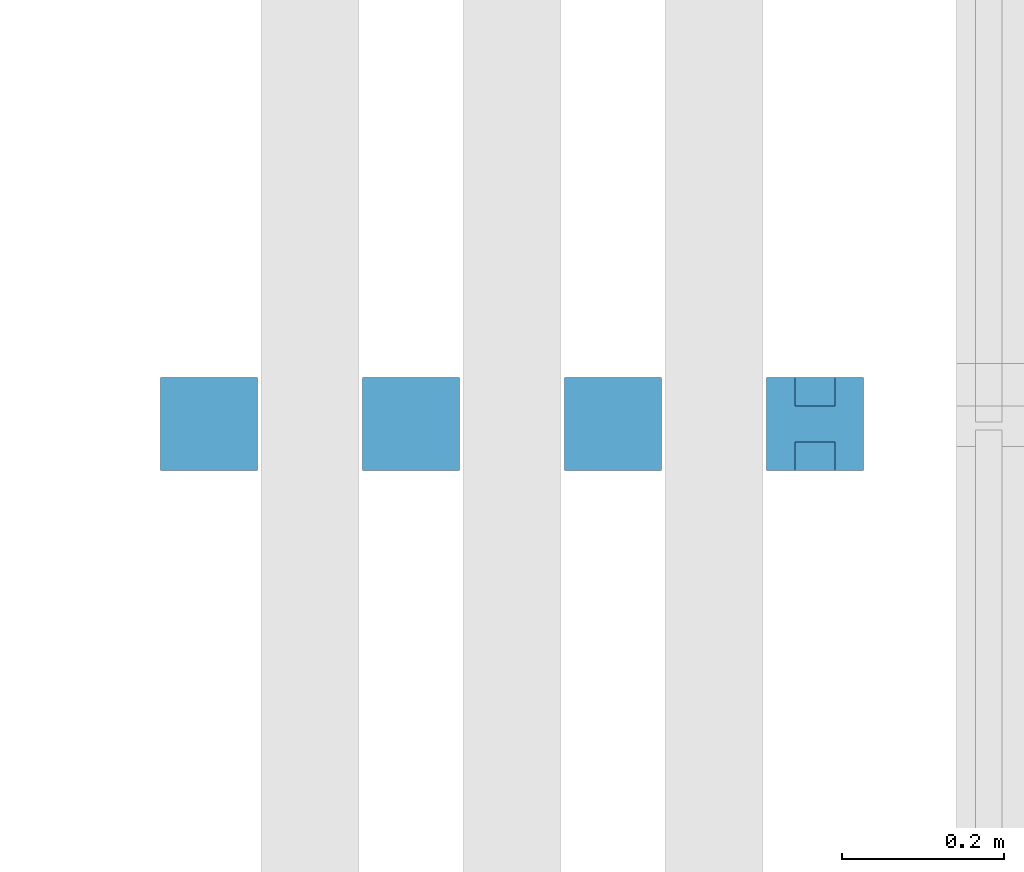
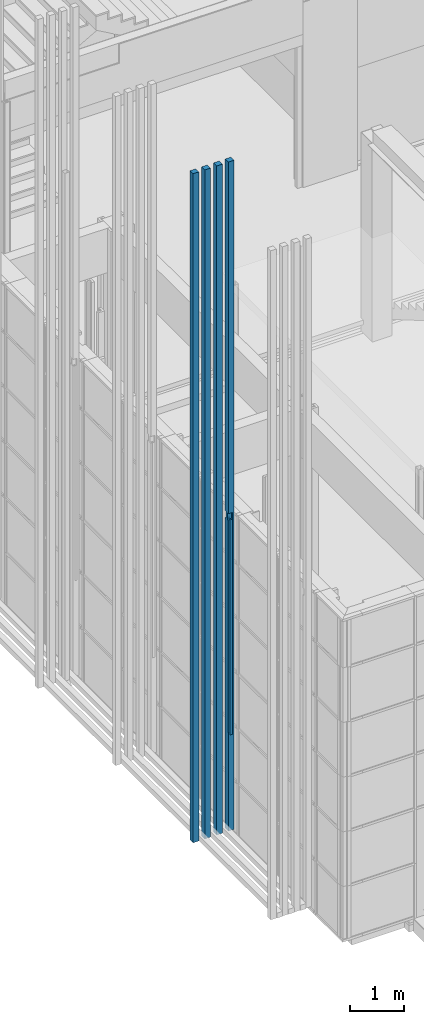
# One storey, part 134 of 260: 3 discrete accessories.
"""IFC2X3 building model written with IfcOpenShell, lengths in millimetres."""

from ifc_helpers import new_model, entity, si_unit, converted_unit, derived_unit, money_unit, direction, frame, origin_with_axes, place, context, subcontext, project, spatial, faceted_brep, material, material_list, type_object, element, save


model = new_model("IFC2X3")

# Units and contexts
model_context = context("Model", 3, precision=0.01, world=origin_with_axes(), true_north=direction((0.0, 1.0)))
body_context = subcontext(model_context, "Body", "Model", "MODEL_VIEW")
ifc_project = project(units=[si_unit("LENGTHUNIT", "METRE", prefix="MILLI"), si_unit("AREAUNIT", "SQUARE_METRE"), si_unit("VOLUMEUNIT", "CUBIC_METRE"), converted_unit("PLANEANGLEUNIT", "DEGREE", entity("IfcPlaneAngleMeasure", 0.0174532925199), si_unit("PLANEANGLEUNIT", "RADIAN"), dimensions=[0, 0, 0, 0, 0, 0, 0]), money_unit("EUR"), converted_unit("TIMEUNIT", "Year", entity("IfcTimeMeasure", 31556926.0), si_unit("TIMEUNIT", "SECOND"), dimensions=[0, 0, 1, 0, 0, 0, 0]), si_unit("MASSUNIT", "GRAM", prefix="KILO"), si_unit("THERMODYNAMICTEMPERATUREUNIT", "DEGREE_CELSIUS"), si_unit("LUMINOUSINTENSITYUNIT", "LUMEN"), si_unit("ENERGYUNIT", "JOULE", prefix="MEGA"), derived_unit("THERMALCONDUCTANCEUNIT", [(si_unit("POWERUNIT", "WATT"), 1), (si_unit("LENGTHUNIT", "METRE"), -1), (si_unit("THERMODYNAMICTEMPERATUREUNIT", "KELVIN"), -1)]), derived_unit("SPECIFICHEATCAPACITYUNIT", [(si_unit("ENERGYUNIT", "JOULE"), 1), (si_unit("MASSUNIT", "GRAM", prefix="KILO"), -1), (si_unit("THERMODYNAMICTEMPERATUREUNIT", "KELVIN"), -1)]), derived_unit("MASSDENSITYUNIT", [(si_unit("MASSUNIT", "GRAM", prefix="KILO"), 1), (si_unit("VOLUMEUNIT", "CUBIC_METRE"), -1)])], contexts=[model_context])

# Site, building, storey
site_placement = place(None, origin_with_axes())
site = spatial("IfcSite", under=ifc_project, at=site_placement, Name="Kolde pst 67a", CompositionType="ELEMENT")
building_placement = place(site_placement, origin_with_axes())
building = spatial("IfcBuilding", under=site, at=building_placement, Name="Riigigümnaasium", CompositionType="ELEMENT")
storey_placement = place(building_placement, origin_with_axes())
storey = spatial("IfcBuildingStorey", under=building, at=storey_placement, Name="1. korrus", CompositionType="ELEMENT", Elevation=0.0)

# Discrete accessories
ifc_material_1 = material(Name="_VÄLISVIIMISTLUS - sõrmjätkatud puitprussid 120x115mm, liitekohad vähemärgatavad, Platowood sõrmjätkatud kuusk või samaväärne; eeltöödeldud tuletõkkevõõbaga, tuletundlikkus B-s1, d0, Woodsafe Exterior WFX™ või samaväärne; kinnitused vastavalt EK osale")
ifc_material_list = material_list([ifc_material_1, ifc_material_1, ifc_material_1, ifc_material_1])
discrete_accessory_type_1 = type_object("IfcDiscreteAccessoryType", Name="120 4-ne vertikaalne 870 x 115")
discrete_accessory_1_placement = place(storey_placement, frame((47687.9900449, 11076.8599885, 280.0), z_axis=(0.0, 0.0, 1.0), x_axis=(-0.999999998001, -6.32316306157e-05, 0.0)))
element("IfcDiscreteAccessory", 1, at=discrete_accessory_1_placement, inside=storey, type_object=discrete_accessory_type_1, material=ifc_material_list, Name="Päikesevarjestus", context=body_context, shape_type="Brep", body=[
    faceted_brep([(97.9977945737, 10.1206802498, 6989.99966445), (47.9977946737, 10.1238418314, 6989.99966445), (47.9977946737, 10.1238418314, 7139.99966445), (133.0, 10.1184670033, 7139.99966445), (133.0, 10.1184670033, 6989.99966445), (97.9977945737, 10.1206802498, 2150.0), (47.9977946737, 10.1238418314, 2150.0), (47.99999995, 45.0, 6989.99966445), (47.99999995, 45.0, 7139.99966445), (133.0, 45.0, 7139.99966445), (133.0, 45.0, 6989.99966445), (133.0, 45.0, 15050.0), (133.0, -70.0, 15050.0), (133.0, -70.0, 7139.99966445), (133.0, -34.8820354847, 7139.99966445), (133.0, -34.8820354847, 6989.99966445), (133.0, -70.0, 6989.99966445), (133.0, -70.0, 0.0), (133.0, 45.0, 0.0), (98.00000005, 45.0, 6989.99966445), (98.00000005, 45.0, 2150.0), (47.99999995, 45.0, 2150.0), (13.0, 45.0, 0.0), (13.0, 45.0, 15050.0), (13.0, -70.0, 15050.0), (13.0, -70.0, 0.0), (47.9927283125, -70.0, 6989.99966445), (47.9927283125, -70.0, 7139.99966445), (47.9949492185, -34.8766604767, 7139.99966445), (47.9945881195, -34.8766604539, 6989.99966445), (97.9945880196, -34.8798220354, 6989.99966445), (97.9923749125, -69.8798219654, 6989.99966445), (47.9923750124, -69.8766603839, 6989.99966445), (97.9945880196, -34.8798220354, 2150.0), (47.9945881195, -34.8766604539, 2150.0), (97.9923749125, -69.8798219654, 2150.0), (47.9923750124, -69.8766603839, 2150.0)], [[[0, 1, 2, 3, 4]], [[1, 0, 5, 6]], [[1, 7, 8, 2]], [[3, 2, 8, 9]], [[10, 4, 3, 9, 11, 12, 13, 14, 15, 16, 17, 18]], [[19, 0, 4, 10]], [[0, 19, 20, 5]], [[20, 21, 6, 5]], [[7, 1, 6, 21]], [[20, 19, 10, 18, 22, 23, 11, 9, 8, 7, 21]], [[23, 24, 12, 11]], [[25, 17, 16, 26, 27, 13, 12, 24]], [[28, 14, 13, 27]], [[28, 29, 30, 15, 14]], [[15, 30, 31, 32, 26, 16]], [[17, 25, 22, 18]], [[25, 24, 23, 22]], [[26, 32, 29, 28, 27]], [[33, 30, 29, 34]], [[35, 31, 30, 33]], [[36, 32, 31, 35]], [[34, 29, 32, 36]], [[34, 36, 35, 33]]]),
    faceted_brep([(383.0, 45.0, 0.0), (263.0, 45.0, 0.0), (263.0, 45.0, 15050.0), (383.0, 45.0, 15050.0), (383.0, -70.0, 0.0), (263.0, -70.0, 0.0), (263.0, -70.0, 15050.0), (383.0, -70.0, 15050.0)], [[[0, 1, 2, 3]], [[0, 4, 5, 1]], [[1, 5, 6, 2]], [[3, 2, 6, 7]], [[4, 0, 3, 7]], [[5, 4, 7, 6]]]),
    faceted_brep([(633.0, 45.0, 0.0), (513.0, 45.0, 0.0), (513.0, 45.0, 15050.0), (633.0, 45.0, 15050.0), (633.0, -70.0, 0.0), (513.0, -70.0, 0.0), (513.0, -70.0, 15050.0), (633.0, -70.0, 15050.0)], [[[0, 1, 2, 3]], [[0, 4, 5, 1]], [[1, 5, 6, 2]], [[3, 2, 6, 7]], [[4, 0, 3, 7]], [[5, 4, 7, 6]]]),
    faceted_brep([(883.0, 45.0, 0.0), (763.0, 45.0, 0.0), (763.0, 45.0, 15050.0), (883.0, 45.0, 15050.0), (883.0, -70.0, 0.0), (763.0, -70.0, 0.0), (763.0, -70.0, 15050.0), (883.0, -70.0, 15050.0)], [[[0, 1, 2, 3]], [[0, 4, 5, 1]], [[1, 5, 6, 2]], [[3, 2, 6, 7]], [[4, 0, 3, 7]], [[5, 4, 7, 6]]]),
])
ifc_material_2 = material(Name="_METALL - teras")
discrete_accessory_type_2 = type_object("IfcDiscreteAccessoryType", Name="_METALL - teras 50 x 35")
discrete_accessory_2_placement = place(storey_placement, frame((47614.9932516, 11129.2336141, 2430.0), z_axis=(0.0, 0.0, 1.0), x_axis=(-1.0, 0.0, 0.0)))
element("IfcDiscreteAccessory", 2, at=discrete_accessory_2_placement, inside=storey, type_object=discrete_accessory_type_2, material=ifc_material_2, Name="Varjestuskardina külgsiin RENSON või analoog", context=body_context, shape_type="Brep", body=[
    faceted_brep([(-25.0, -17.5, 4839.99966445), (-25.0, -17.5, 0.0), (25.0, -17.5, 0.0), (25.0, -17.5, 4839.99966445), (-25.0, 17.5, 4839.99966445), (-25.0, 17.5, 0.0), (25.0, 17.5, 0.0), (25.0, 17.5, 4839.99966445)], [[[0, 1, 2, 3]], [[4, 5, 1, 0]], [[2, 1, 5, 6]], [[3, 2, 6, 7]], [[4, 0, 3, 7]], [[7, 6, 5, 4]]]),
])
discrete_accessory_3_placement = place(storey_placement, frame((47614.9928905, 11049.2331117, 2430.0), z_axis=(0.0, 0.0, 1.0), x_axis=(1.0, 0.0, 0.0)))
element("IfcDiscreteAccessory", 3, at=discrete_accessory_3_placement, inside=storey, type_object=discrete_accessory_type_2, material=ifc_material_2, Name="Varjestuskardina külgsiin RENSON või analoog", context=body_context, shape_type="Brep", body=[
    faceted_brep([(25.0, 17.5, 4839.99966445), (25.0, 17.5, 0.0), (-25.0, 17.5, 0.0), (-25.0, 17.5, 4839.99966445), (25.0, -17.5, 4839.99966445), (25.0, -17.5, 0.0), (-25.0, -17.5, 0.0), (-25.0, -17.5, 4839.99966445)], [[[0, 1, 2, 3]], [[4, 5, 1, 0]], [[2, 1, 5, 6]], [[3, 2, 6, 7]], [[4, 0, 3, 7]], [[7, 6, 5, 4]]]),
])

save(model, "model.ifc")
